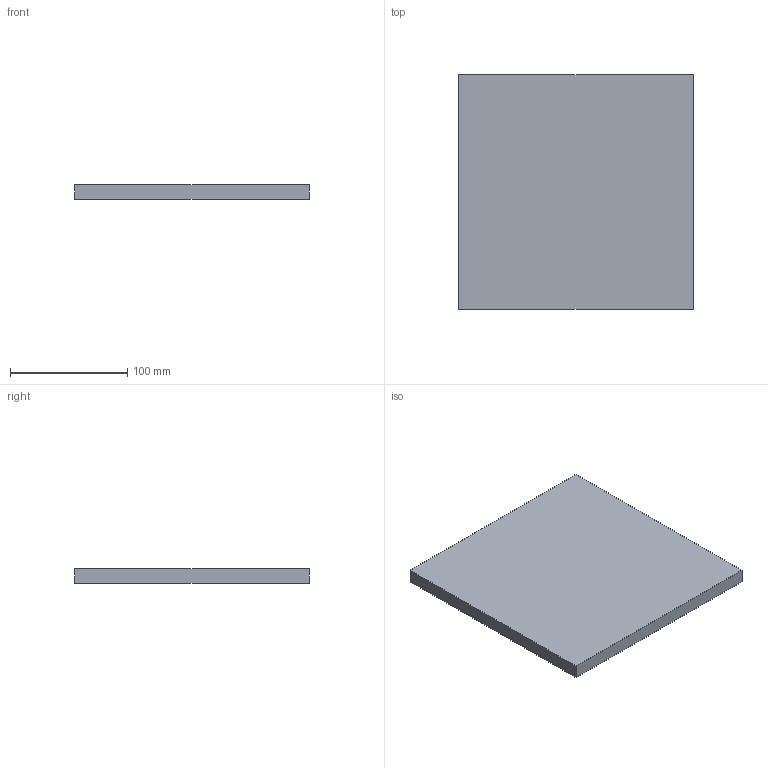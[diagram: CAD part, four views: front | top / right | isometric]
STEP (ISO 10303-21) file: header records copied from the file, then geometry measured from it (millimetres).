
FILE_DESCRIPTION(('Open CASCADE Model'),'2;1');
FILE_NAME('Open CASCADE Shape Model','2026-10-19T10:09:21',('Author'),( 'Open CASCADE'),'Open CASCADE STEP processor 8.0','Open CASCADE 8.0' ,'Unknown');
FILE_SCHEMA(('AUTOMOTIVE_DESIGN { 1 0 10303 214 1 1 1 1 }'));
Length unit declared in the file: millimetre
Products named in the file (1): CORTE_ESPACIADOR_CENTRAL_200x200x12_P05 143
Bounding box: 200 x 200 x 12 mm (x, y, z)
Volume: 480000 mm3; surface area: 89600 mm2
Topology: 1 solids, 1 shells, 6 faces, 12 edges, 8 vertices
Faces by surface type: plane 6
Entity records: 322 total; most frequent: CARTESIAN_POINT 51, DIRECTION 50, LINE 36, VECTOR 36, ORIENTED_EDGE 24, PCURVE 24, DEFINITIONAL_REPRESENTATION 24, EDGE_CURVE 12
